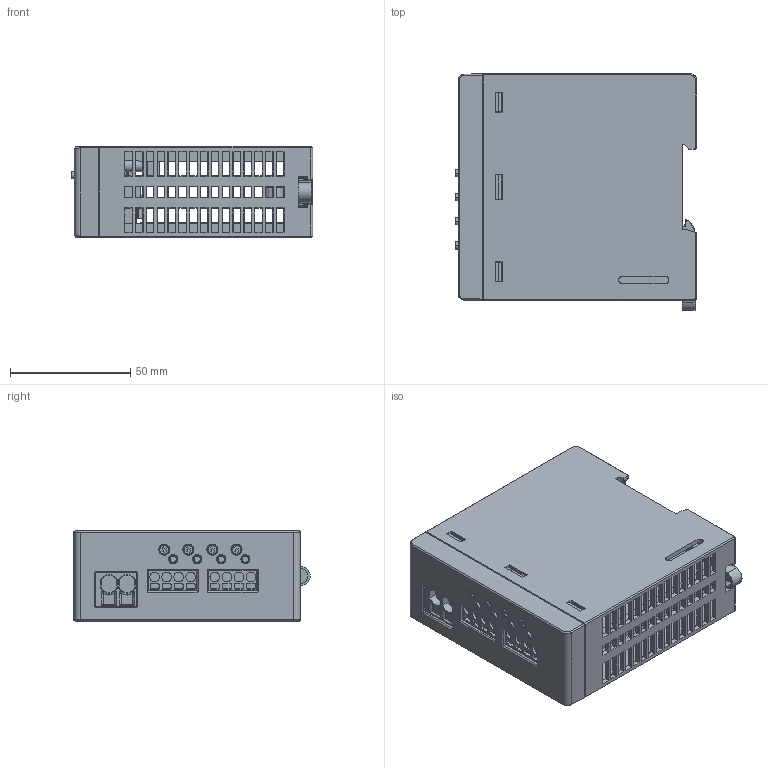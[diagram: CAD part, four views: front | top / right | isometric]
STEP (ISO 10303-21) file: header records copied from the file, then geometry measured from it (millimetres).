
FILE_DESCRIPTION((''),'2;1');
FILE_NAME('0-ASM-BREAKER-4_ASM','2025-02-12T11:10:15',('Tangjh'),(''),'CREO PARAMETRIC BY PTC INC, 2019010','CREO PARAMETRIC BY PTC INC, 2019010','');
FILE_SCHEMA(('CONFIG_CONTROL_DESIGN','SHAPE_APPEARANCE_LAYERS_GROUPS'));
Products named in the file (16): PCB-4; DG271R-7_5-02P-1Y-100A; RESISTANCE-CONTINUOUS; SWITCH; KNOB; KEY-BACKLIGHT; LED; HFD4; C1; DG271R-5_0-04P-1Y-100A; PCB-ASM-4_ASM; KEY-FRONT-4; BODY-4; 116007_2_5_1; 111011_2_3_1; 0-ASM-BREAKER-4_ASM
Assembly tree (32 placements, depth 3):
  0-ASM-BREAKER-4_ASM
    PCB-ASM-4_ASM
      PCB-4
      DG271R-7_5-02P-1Y-100A
      RESISTANCE-CONTINUOUS  x4
      SWITCH  x4
      KNOB  x4
      KEY-BACKLIGHT  x4
      LED  x4
      HFD4
      C1  x2
      DG271R-5_0-04P-1Y-100A  x2
    KEY-FRONT-4
    BODY-4
    116007_2_5_1
    111011_2_3_1
Bounding box: 100.22 x 98.1 x 37.8 mm (x, y, z)
Volume: 97234.3 mm3; surface area: 109411.6 mm2
Topology: 31 solids, 33 shells, 2633 faces, 7129 edges, 4619 vertices
Faces by surface type: plane 1923, cylinder 479, cone 116, sphere 44, torus 37, bspline 34
Entity records: 77119 total; most frequent: CARTESIAN_POINT 17155, ORIENTED_EDGE 10928, DIRECTION 9645, EDGE_CURVE 5464, VECTOR 4339, LINE 4339, VERTEX_POINT 3559, AXIS2_PLACEMENT_3D 2653
